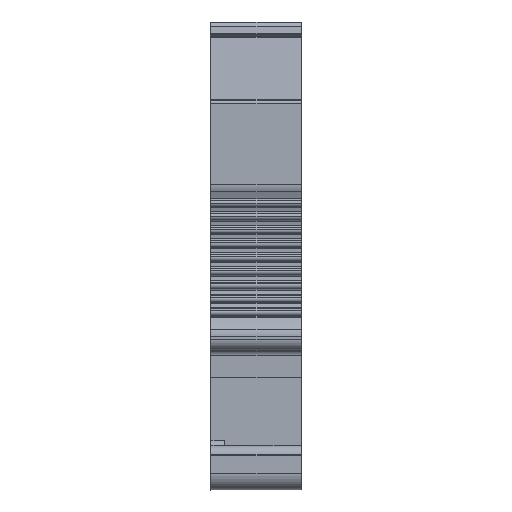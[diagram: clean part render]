
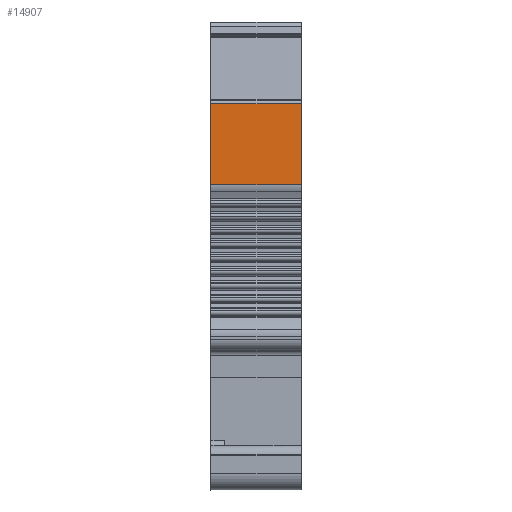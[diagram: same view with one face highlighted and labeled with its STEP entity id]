
A CAD part, front view. The second image highlights one B-rep face of the part: STEP entity #14907.
In plain terms, the highlighted planar face has unit normal (0, -1, 0).
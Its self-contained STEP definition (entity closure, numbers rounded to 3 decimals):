
#1867=DIRECTION('',(1.,0.,0.));
#1868=VECTOR('',#1867,8.15);
#1869=CARTESIAN_POINT('',(0.,1.91,
27.533));
#1870=LINE('',#1869,#1868);
#1871=DIRECTION('',(0.,0.,-1.));
#1872=VECTOR('',#1871,7.312);
#1873=CARTESIAN_POINT('',(8.15,1.91,34.846));
#1874=LINE('',#1873,#1872);
#1875=DIRECTION('',(0.,0.,1.));
#1876=VECTOR('',#1875,7.312);
#1877=CARTESIAN_POINT('',(0.,1.91,
27.533));
#1878=LINE('',#1877,#1876);
#1883=DIRECTION('',(-1.,0.,0.));
#1884=VECTOR('',#1883,8.15);
#1885=CARTESIAN_POINT('',(8.15,1.91,34.846));
#1886=LINE('',#1885,#1884);
#10477=CARTESIAN_POINT('',(8.15,1.91,27.533));
#10478=VERTEX_POINT('',#10477);
#10479=CARTESIAN_POINT('',(8.15,1.91,34.846));
#10480=VERTEX_POINT('',#10479);
#10996=CARTESIAN_POINT('',(0.,1.91,
27.533));
#10997=VERTEX_POINT('',#10996);
#10998=CARTESIAN_POINT('',(0.,1.91,
34.846));
#10999=VERTEX_POINT('',#10998);
#14894=CARTESIAN_POINT('',(8.15,1.91,27.2));
#14895=DIRECTION('',(0.,1.,0.));
#14896=DIRECTION('',(0.,0.,1.));
#14897=AXIS2_PLACEMENT_3D('',#14894,#14895,#14896);
#14898=PLANE('',#14897);
#14900=ORIENTED_EDGE('',*,*,#14899,.F.);
#14901=ORIENTED_EDGE('',*,*,#13633,.T.);
#14902=ORIENTED_EDGE('',*,*,#14885,.F.);
#14904=ORIENTED_EDGE('',*,*,#14903,.T.);
#14905=EDGE_LOOP('',(#14900,#14901,#14902,#14904));
#14906=FACE_OUTER_BOUND('',#14905,.F.);
#14907=ADVANCED_FACE('',(#14906),#14898,.F.);
#13633=EDGE_CURVE('',#10480,#10478,#1874,.T.);
#14885=EDGE_CURVE('',#10997,#10478,#1870,.T.);
#14899=EDGE_CURVE('',#10480,#10999,#1886,.T.);
#14903=EDGE_CURVE('',#10997,#10999,#1878,.T.);
